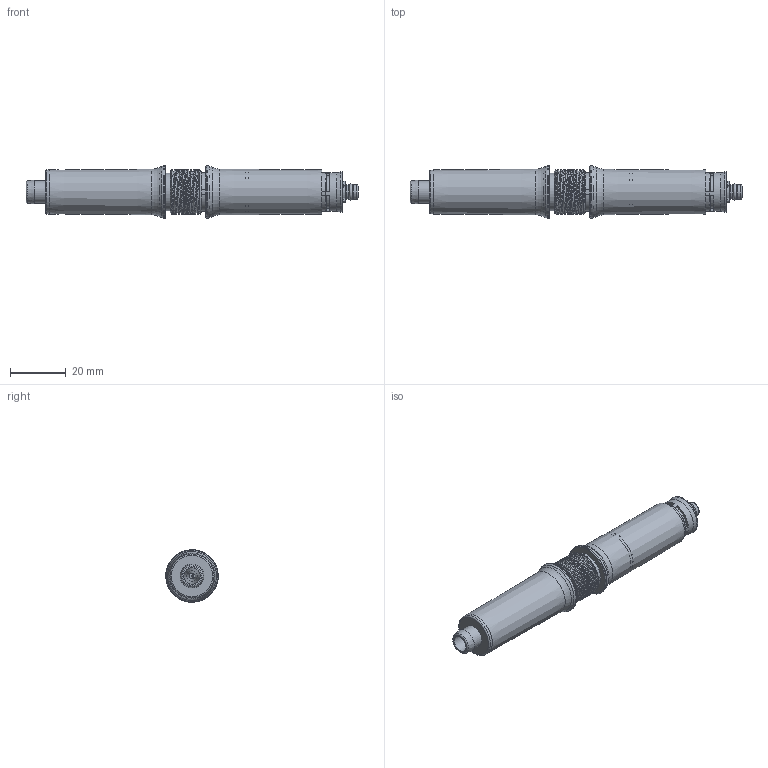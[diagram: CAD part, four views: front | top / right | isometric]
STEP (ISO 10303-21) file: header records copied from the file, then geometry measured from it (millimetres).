
FILE_DESCRIPTION( ( 'Unknown' ), '1' );
FILE_NAME( 'C:/Documents and Settings/Owner/官帕 拳搁/VC203FS.stp', 'Unknown', ( 'Unknown' ), ( 'Unknown' ), 'PSStep 10.0', 'Unknown', ' ' );
FILE_SCHEMA( ( 'AUTOMOTIVE_DESIGN { 1 0 10303 214 1 1 1 1 }' ) );
Length unit declared in the file: millimetre
Products named in the file (8): Assem1; VC203; Stopper; Filter Housing(203)-A(Åõ°; Silencer Cover(203); Sponge-1; Silencer End cap(203)
Bounding box: 119 x 18.8 x 18.8 mm (x, y, z)
Volume: 24717.1 mm3; surface area: 34944.4 mm2
Topology: 16 solids, 16 shells, 794 faces, 1688 edges, 1040 vertices
Faces by surface type: plane 304, cylinder 248, torus 188, cone 42, bspline 10, revolution 2
Full cylindrical faces by diameter (mm): 0.195 x2, 1.159 x2, 2.063 x2, 2.3 x6, 3.6 x2, 3.8 x4, 4.2 x2, 4.769 x2, 5.2 x4, 6 x6, 7 x4, 7.4 x4, 7.6 x4, 8 x6, 9 x8, 9.1 x2, 9.2 x4, 9.6 x2, 10 x2, 10.6 x2, 10.8 x4, 11.696 x2, 11.8 x4, 13.6 x2, 13.8 x2, 14 x12, 14.4 x2, 14.5 x4, 15.8 x2, 18.8 x2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
Entity records: 15095 total; most frequent: CARTESIAN_POINT 3498, DIRECTION 1911, ORIENTED_EDGE 1422, AXIS2_PLACEMENT_3D 826, EDGE_CURVE 711, EDGE_LOOP 595, VERTEX_POINT 510, FACE_OUTER_BOUND 495
